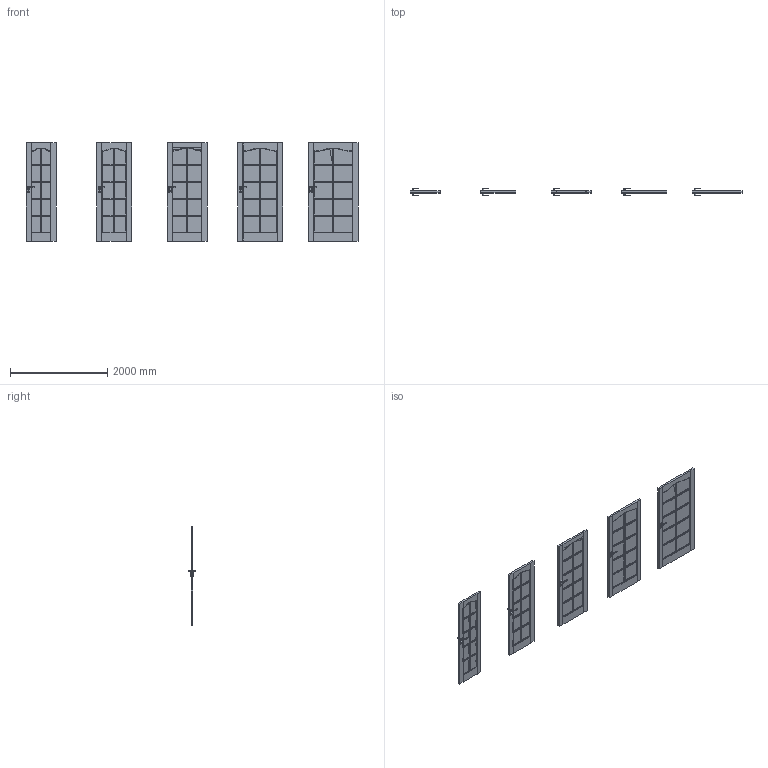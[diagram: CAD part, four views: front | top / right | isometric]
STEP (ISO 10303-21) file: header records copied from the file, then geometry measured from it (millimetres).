
FILE_DESCRIPTION(/* description */ (''),/* implementation_level */ '2;1');
FILE_NAME(/* name */ '050264_A_2-Skrzydło MADRYT model duży szpros_ polska norma _PN__ bezprzylgowe..stp',/* time_stamp */ '2025-02-13T14:45:19+01:00',/* author */ (''),/* organization */ (''),/* preprocessor_version */ 'ST-DEVELOPER v16',/* originating_system */ 'SIEMENS PLM Software NX 11.0',/* authorisation */ '');
FILE_SCHEMA (('AUTOMOTIVE_DESIGN { 1 0 10303 214 3 1 1 1 }'));
Products named in the file (1): bkni0FC001FAmf3b
Bounding box: 6818 x 153.13 x 2017 mm (x, y, z)
Volume: 162585518.9 mm3; surface area: 21414998 mm2
Topology: 30 solids, 30 shells, 5732 faces, 15042 edges, 8646 vertices
Faces by surface type: plane 3008, cylinder 1942, bspline 642, sphere 140
Full cylindrical faces by diameter (mm): 12 x20
Entity records: 187234 total; most frequent: CARTESIAN_POINT 57692, ORIENTED_EDGE 29764, DIRECTION 22887, EDGE_CURVE 14882, LINE 9801, VECTOR 9801, VERTEX_POINT 8646, AXIS2_PLACEMENT_3D 6543
